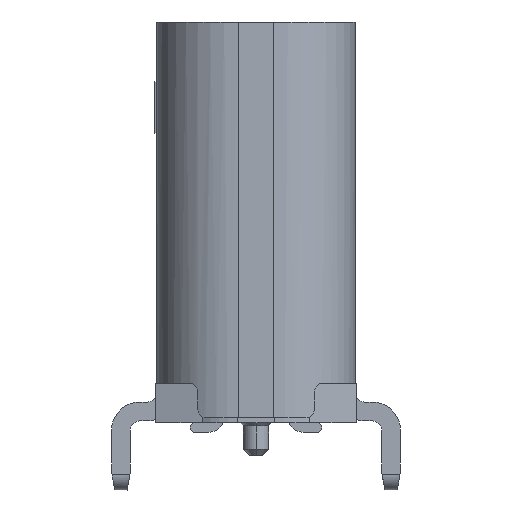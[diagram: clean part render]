
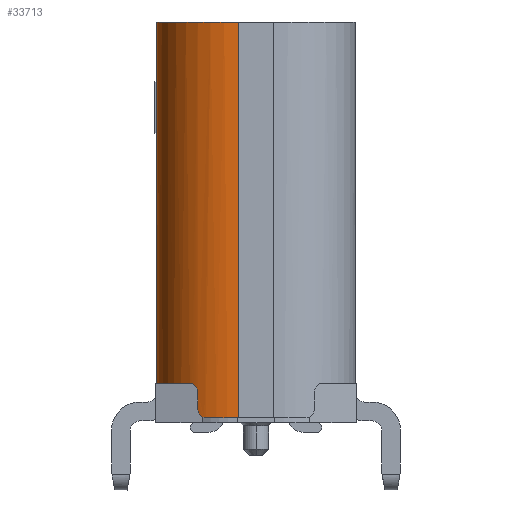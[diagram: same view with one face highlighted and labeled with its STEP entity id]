
A CAD part, left-side view. The second image highlights one B-rep face of the part: STEP entity #33713.
In plain terms, the highlighted cylindrical face has radius 1.3 mm (diameter 2.6 mm), a partial arc.
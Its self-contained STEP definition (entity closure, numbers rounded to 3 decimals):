
#1052 = VECTOR ( 'NONE', #29533, 1000. ) ;
#1154 = CARTESIAN_POINT ( 'NONE',  ( -3.17, 0.28, -0.85 ) ) ;
#1380 = VERTEX_POINT ( 'NONE', #20767 ) ;
#1392 = VERTEX_POINT ( 'NONE', #9974 ) ;
#1515 = DIRECTION ( 'NONE',  ( -0.096, 0.995, 0. ) ) ;
#1809 = DIRECTION ( 'NONE',  ( 0., 0., -1. ) ) ;
#1869 = ORIENTED_EDGE ( 'NONE', *, *, #30188, .F. ) ;
#1920 = ORIENTED_EDGE ( 'NONE', *, *, #10740, .T. ) ;
#1934 = VERTEX_POINT ( 'NONE', #4551 ) ;
#2271 = DIRECTION ( 'NONE',  ( -1., 0., 0. ) ) ;
#2308 = VECTOR ( 'NONE', #6109, 1000. ) ;
#2576 = CARTESIAN_POINT ( 'NONE',  ( -4.296, 0.93, -1. ) ) ;
#2744 = CARTESIAN_POINT ( 'NONE',  ( -4.296, 0.93, -1.25 ) ) ;
#3086 = CARTESIAN_POINT ( 'NONE',  ( -3.17, 0.28, -0.85 ) ) ;
#3186 = ORIENTED_EDGE ( 'NONE', *, *, #30943, .T. ) ;
#3202 = ORIENTED_EDGE ( 'NONE', *, *, #29029, .F. ) ;
#3836 = CARTESIAN_POINT ( 'NONE',  ( -4.363, 0.796, -1.4 ) ) ;
#4250 = DIRECTION ( 'NONE',  ( 0., 0., 1. ) ) ;
#4551 = CARTESIAN_POINT ( 'NONE',  ( -4.213, 1.056, -0.85 ) ) ;
#5700 = VECTOR ( 'NONE', #1809, 1000. ) ;
#6040 = VERTEX_POINT ( 'NONE', #21339 ) ;
#6109 = DIRECTION ( 'NONE',  ( 0., 0., 1. ) ) ;
#6536 = DIRECTION ( 'NONE',  ( 0., 0., 1. ) ) ;
#7096 = DIRECTION ( 'NONE',  ( 0., 0., 1. ) ) ;
#7197 = CARTESIAN_POINT ( 'NONE',  ( -3.295, 1.574, -0.85 ) ) ;
#7638 = VERTEX_POINT ( 'NONE', #28018 ) ;
#7718 = B_SPLINE_CURVE_WITH_KNOTS ( 'NONE', 3,
 ( #31773, #22924, #25829, #28882, #31398, #2576 ),
 .UNSPECIFIED., .F., .F.,
 ( 4, 2, 4 ),
 ( 0., 0.5, 1. ),
 .UNSPECIFIED. ) ;
#7765 = DIRECTION ( 'NONE',  ( 0., 1., 0. ) ) ;
#8699 = CARTESIAN_POINT ( 'NONE',  ( -4.347, 0.833, -1.4 ) ) ;
#9068 = EDGE_CURVE ( 'NONE', #25615, #1380, #17340, .T. ) ;
#9170 = VERTEX_POINT ( 'NONE', #26751 ) ;
#9974 = CARTESIAN_POINT ( 'NONE',  ( -3.822, 1.404, -0.85 ) ) ;
#10609 = AXIS2_PLACEMENT_3D ( 'NONE', #1154, #7096, #1515 ) ;
#10630 = DIRECTION ( 'NONE',  ( 0., 0., 1. ) ) ;
#10740 = EDGE_CURVE ( 'NONE', #19287, #1392, #35156, .T. ) ;
#10817 = VERTEX_POINT ( 'NONE', #3836 ) ;
#11370 = EDGE_CURVE ( 'NONE', #1934, #9170, #7718, .T. ) ;
#11585 = CARTESIAN_POINT ( 'NONE',  ( -4.33, 0.867, -1.384 ) ) ;
#12421 = LINE ( 'NONE', #18384, #2308 ) ;
#13238 = B_SPLINE_CURVE_WITH_KNOTS ( 'NONE', 3,
 ( #2744, #14451, #37906, #11585, #8699, #20405 ),
 .UNSPECIFIED., .F., .F.,
 ( 4, 2, 4 ),
 ( 0., 0.5, 1. ),
 .UNSPECIFIED. ) ;
#14451 = CARTESIAN_POINT ( 'NONE',  ( -4.296, 0.93, -1.29 ) ) ;
#14742 = LINE ( 'NONE', #18377, #1052 ) ;
#15958 = CARTESIAN_POINT ( 'NONE',  ( -3.17, 0.28, -1.526 ) ) ;
#16852 = CARTESIAN_POINT ( 'NONE',  ( -3.17, 0.28, 4.9 ) ) ;
#17340 = LINE ( 'NONE', #36952, #5700 ) ;
#17585 = CIRCLE ( 'NONE', #21849, 1.3 ) ;
#18306 = AXIS2_PLACEMENT_3D ( 'NONE', #16852, #28582, #2271 ) ;
#18377 = CARTESIAN_POINT ( 'NONE',  ( -4.296, 0.93, -1.25 ) ) ;
#18384 = CARTESIAN_POINT ( 'NONE',  ( -3.17, 1.58, -0.85 ) ) ;
#19209 = ORIENTED_EDGE ( 'NONE', *, *, #29791, .T. ) ;
#19287 = VERTEX_POINT ( 'NONE', #7197 ) ;
#19590 = EDGE_CURVE ( 'NONE', #1392, #1934, #17585, .T. ) ;
#20405 = CARTESIAN_POINT ( 'NONE',  ( -4.363, 0.796, -1.4 ) ) ;
#20751 = DIRECTION ( 'NONE',  ( -0.918, 0.397, 0. ) ) ;
#20767 = CARTESIAN_POINT ( 'NONE',  ( -4.47, 0.28, -1.4 ) ) ;
#20858 = EDGE_LOOP ( 'NONE', ( #24171, #31678, #1869, #3186, #21083, #21561, #19209, #3202, #22814, #1920 ) ) ;
#20930 = DIRECTION ( 'NONE',  ( -0.502, 0.865, 0. ) ) ;
#21083 = ORIENTED_EDGE ( 'NONE', *, *, #28607, .T. ) ;
#21339 = CARTESIAN_POINT ( 'NONE',  ( -4.296, 0.93, -1.25 ) ) ;
#21561 = ORIENTED_EDGE ( 'NONE', *, *, #9068, .F. ) ;
#21849 = AXIS2_PLACEMENT_3D ( 'NONE', #3086, #35549, #20930 ) ;
#22814 = ORIENTED_EDGE ( 'NONE', *, *, #28096, .T. ) ;
#22924 = CARTESIAN_POINT ( 'NONE',  ( -4.237, 1.024, -0.85 ) ) ;
#24171 = ORIENTED_EDGE ( 'NONE', *, *, #19590, .T. ) ;
#24424 = FACE_OUTER_BOUND ( 'NONE', #20858, .T. ) ;
#25564 = CIRCLE ( 'NONE', #30439, 1.3 ) ;
#25615 = VERTEX_POINT ( 'NONE', #36203 ) ;
#25829 = CARTESIAN_POINT ( 'NONE',  ( -4.258, 0.992, -0.866 ) ) ;
#26564 = CARTESIAN_POINT ( 'NONE',  ( -3.17, 1.58, 4.9 ) ) ;
#26751 = CARTESIAN_POINT ( 'NONE',  ( -4.296, 0.93, -1. ) ) ;
#28018 = CARTESIAN_POINT ( 'NONE',  ( -3.17, 1.58, -0.85 ) ) ;
#28096 = EDGE_CURVE ( 'NONE', #7638, #19287, #25564, .T. ) ;
#28582 = DIRECTION ( 'NONE',  ( 0., 0., -1. ) ) ;
#28607 = EDGE_CURVE ( 'NONE', #10817, #1380, #35426, .T. ) ;
#28882 = CARTESIAN_POINT ( 'NONE',  ( -4.288, 0.944, -0.921 ) ) ;
#29029 = EDGE_CURVE ( 'NONE', #7638, #32148, #12421, .T. ) ;
#29533 = DIRECTION ( 'NONE',  ( 0., 0., 1. ) ) ;
#29791 = EDGE_CURVE ( 'NONE', #25615, #32148, #32941, .T. ) ;
#30188 = EDGE_CURVE ( 'NONE', #6040, #9170, #14742, .T. ) ;
#30439 = AXIS2_PLACEMENT_3D ( 'NONE', #36951, #10630, #7765 ) ;
#30943 = EDGE_CURVE ( 'NONE', #6040, #10817, #13238, .T. ) ;
#31398 = CARTESIAN_POINT ( 'NONE',  ( -4.296, 0.93, -0.96 ) ) ;
#31521 = AXIS2_PLACEMENT_3D ( 'NONE', #15958, #4250, #33630 ) ;
#31678 = ORIENTED_EDGE ( 'NONE', *, *, #11370, .T. ) ;
#31773 = CARTESIAN_POINT ( 'NONE',  ( -4.213, 1.056, -0.85 ) ) ;
#32148 = VERTEX_POINT ( 'NONE', #26564 ) ;
#32941 = CIRCLE ( 'NONE', #18306, 1.3 ) ;
#33573 = AXIS2_PLACEMENT_3D ( 'NONE', #35716, #6536, #20751 ) ;
#33630 = DIRECTION ( 'NONE',  ( 1., 0., 0. ) ) ;
#33713 = ADVANCED_FACE ( 'NONE', ( #24424 ), #36139, .T. ) ;
#35156 = CIRCLE ( 'NONE', #10609, 1.3 ) ;
#35426 = CIRCLE ( 'NONE', #33573, 1.3 ) ;
#35549 = DIRECTION ( 'NONE',  ( 0., 0., 1. ) ) ;
#35716 = CARTESIAN_POINT ( 'NONE',  ( -3.17, 0.28, -1.4 ) ) ;
#36139 = CYLINDRICAL_SURFACE ( 'NONE', #31521, 1.3 ) ;
#36203 = CARTESIAN_POINT ( 'NONE',  ( -4.47, 0.28, 4.9 ) ) ;
#36952 = CARTESIAN_POINT ( 'NONE',  ( -4.47, 0.28, 4.9 ) ) ;
#36951 = CARTESIAN_POINT ( 'NONE',  ( -3.17, 0.28, -0.85 ) ) ;
#37906 = CARTESIAN_POINT ( 'NONE',  ( -4.304, 0.916, -1.328 ) ) ;
